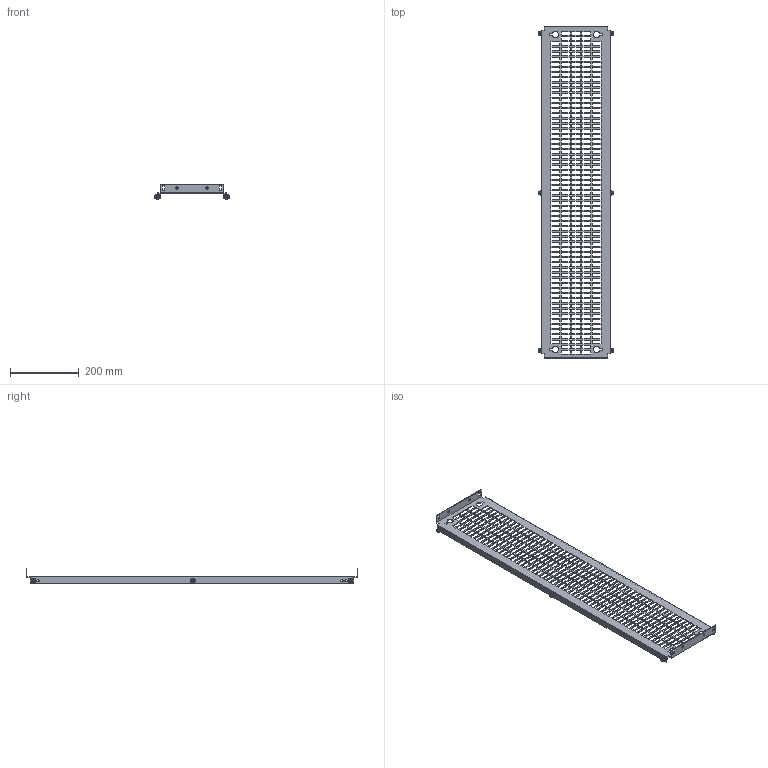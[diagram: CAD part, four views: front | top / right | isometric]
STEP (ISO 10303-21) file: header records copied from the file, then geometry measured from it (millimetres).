
FILE_DESCRIPTION(('Open CASCADE Model'),'2;1');
FILE_NAME('Open CASCADE Shape Model','2025-02-19T16:48:42',('Author'),( 'Open CASCADE'),'Open CASCADE STEP processor 7.8','Open CASCADE 7.8' ,'Unknown');
FILE_SCHEMA(('AUTOMOTIVE_DESIGN { 1 0 10303 214 1 1 1 1 }'));
Length unit declared in the file: millimetre
Products named in the file (4): Compound1; Solid1; Solid2; Solid3
Assembly tree (13 placements, depth 2):
  Compound1
    Solid1
    Solid2  x6
    Solid3  x6
Bounding box: 220 x 969 x 43 mm (x, y, z)
Volume: 297502.3 mm3; surface area: 348343.3 mm2
Topology: 13 solids, 13 shells, 1626 faces, 4622 edges, 3028 vertices
Faces by surface type: plane 1396, cone 102, bspline 72, cylinder 38, torus 18
Full cylindrical faces by diameter (mm): 5 x6, 6 x12, 7 x16
Entity records: 46660 total; most frequent: CARTESIAN_POINT 8731, ORIENTED_EDGE 8114, DIRECTION 6784, EDGE_CURVE 4057, LINE 3892, VECTOR 3892, VERTEX_POINT 2698, FACE_BOUND 2031
